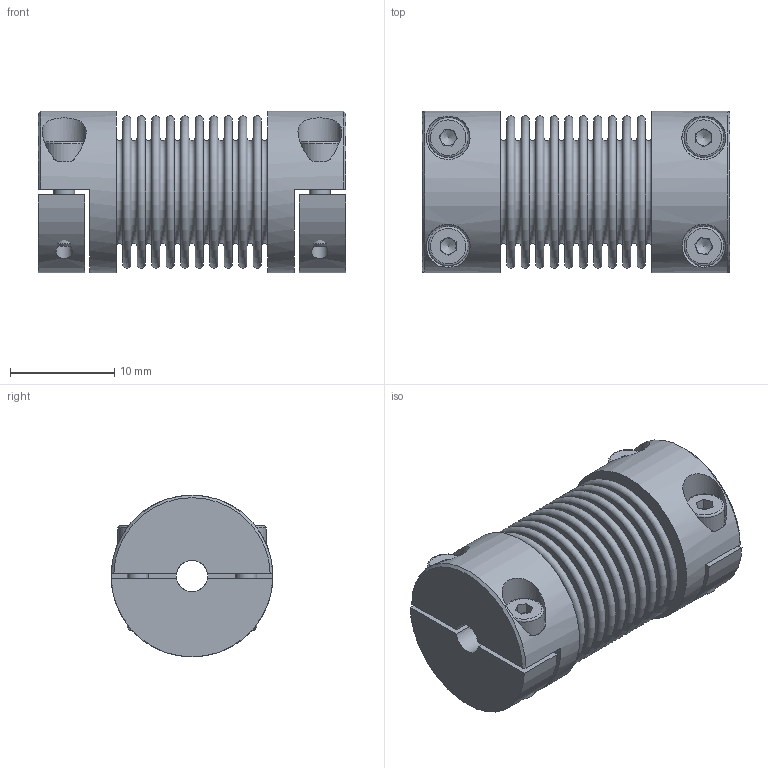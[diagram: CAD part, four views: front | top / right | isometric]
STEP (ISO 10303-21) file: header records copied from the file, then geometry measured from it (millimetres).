
FILE_DESCRIPTION( ( 'Unknown' ), '1' );
FILE_NAME( 'K:/Konstruktion/KB2H/KB2H-5-28.stp', 'Unknown', ( 'Unknown' ), ( 'Unknown' ), 'PSStep 16.0.42', 'Unknown', ' ' );
FILE_SCHEMA( ( 'AUTOMOTIVE_DESIGN { 1 0 10303 214 1 1 1 1 }' ) );
Length unit declared in the file: millimetre
Products named in the file (5): Assem1; KNH-5; Socket Head Cap Screw_DIN_DIN 912 M2 x 8 --- 8N_11; BL5_Standard_0
Assembly tree (9 placements, depth 2):
  Assem1
    KNH-5  x2
    KNH-5  x2
    Socket Head Cap Screw_DIN_DIN 912 M2 x 8 --- 8N_11  x4
    BL5_Standard_0
Bounding box: 29.5 x 15.5 x 15.5 mm (x, y, z)
Volume: 2764 mm3; surface area: 7574.8 mm2
Topology: 9 solids, 9 shells, 228 faces, 442 edges, 282 vertices
Faces by surface type: plane 128, torus 58, cylinder 32, cone 10
Full cylindrical faces by diameter (mm): 1.567 x4, 2 x4, 2.2 x4, 3 x2, 3.8 x4, 12.9 x2, 13.1 x2, 15.5 x2
Entity records: 4592 total; most frequent: CARTESIAN_POINT 697, DIRECTION 602, ORIENTED_EDGE 356, AXIS2_PLACEMENT_3D 281, EDGE_LOOP 263, FACE_OUTER_BOUND 203, EDGE_CURVE 178, VERTEX_POINT 176
